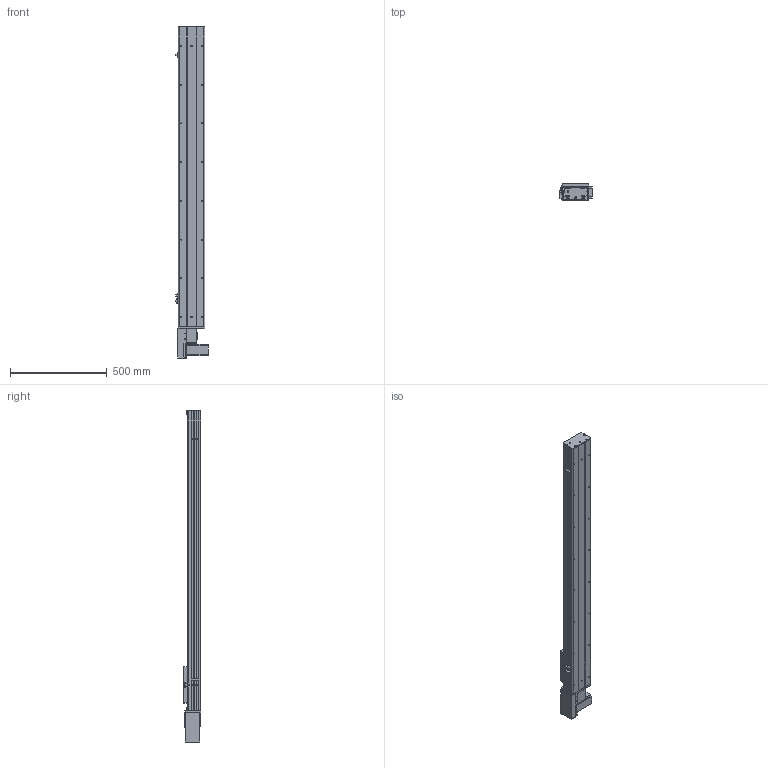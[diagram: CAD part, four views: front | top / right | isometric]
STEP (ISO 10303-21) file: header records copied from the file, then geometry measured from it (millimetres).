
FILE_DESCRIPTION (( 'STEP AP203' ), '1' );
FILE_NAME ('Y135CB-D90-S1250-BR-P400W.STEP', '2020-02-18T02:34:04', ( '微软用户' ), ( '微软中国' ), 'SwSTEP 2.0', 'SolidWorks 2017', '' );
FILE_SCHEMA (( 'CONFIG_CONTROL_DESIGN' ));
Length unit declared in the file: millimetre
Products named in the file (18): C-詩湍揤踡え-陔; 35CB---喘謫眊楊擘啣; 135CB--詩湍-CE; Y10B-耜蚾蟀諉啣----; Y100-135俋离換覜ん--; Y俋欶BR----; Y135C-陔俋离換覜結え-; 0B-埴倛裔啣; 5C--俋欶; 0B-源倛裔啣; C-雄赽釱--; 0B-萇儂楊擘啣; Y10B--々湍喘謫眊--666; san松下电机400不带刹车----; Y135CB-耜裔; Y135CB-D90-S1250-BR-P400W; 5CB --掛极耜裔啣-; 135CB---遴掛极.-
Assembly tree (21 placements, depth 2):
  Y135CB-D90-S1250-BR-P400W
    Y135CB-耜裔
    135CB---遴掛极.-
    35CB---喘謫眊楊擘啣
    Y10B-耜蚾蟀諉啣----
    Y俋欶BR----
    0B-埴倛裔啣
    0B-源倛裔啣
    0B-萇儂楊擘啣
    san松下电机400不带刹车----
    5CB --掛极耜裔啣-  x2
    C-詩湍揤踡え-陔  x2
    135CB--詩湍-CE
    Y100-135俋离換覜ん--  x3
    Y135C-陔俋离換覜結え-
    5C--俋欶
    C-雄赽釱--
    Y10B--々湍喘謫眊--666
Bounding box: 167.5 x 91 x 1714.5 mm (x, y, z)
Volume: 5036587.1 mm3; surface area: 1977930.1 mm2
Topology: 21 solids, 21 shells, 949 faces, 2545 edges, 1686 vertices
Faces by surface type: cylinder 475, plane 458, cone 16
Entity records: 29543 total; most frequent: DIRECTION 4905, CARTESIAN_POINT 4856, ORIENTED_EDGE 4566, EDGE_CURVE 2283, AXIS2_PLACEMENT_3D 1787, VERTEX_POINT 1514, LINE 1331, VECTOR 1331
